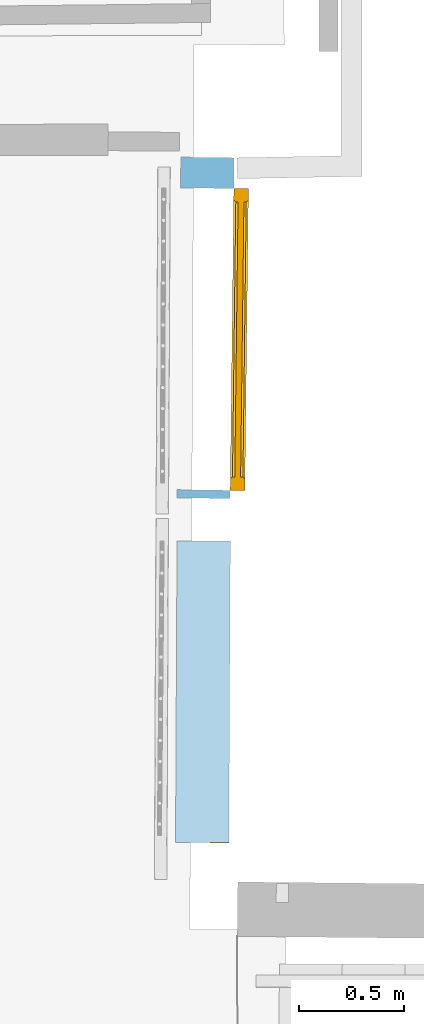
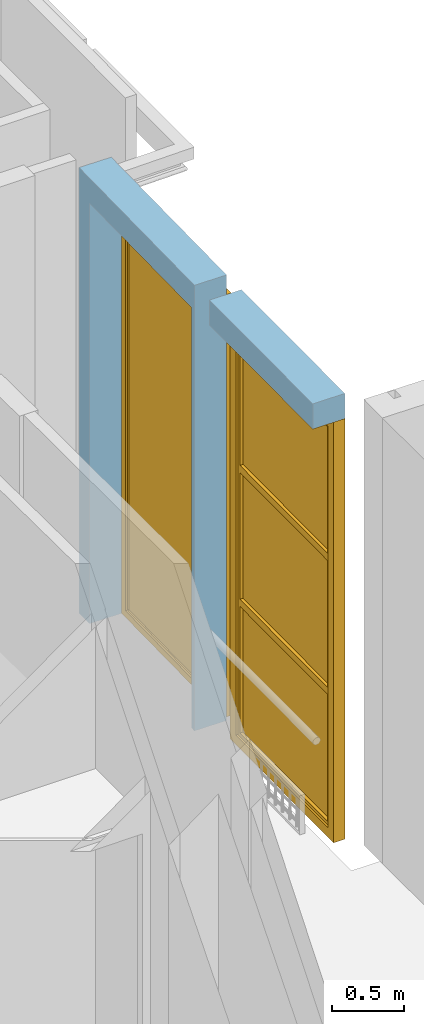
# One storey, part 42 of 66: 2 windows, 2 openings, plus 2 elements that do not belong to this part.
"""IFC2X3 building model written with IfcOpenShell, lengths in centimetres."""

from ifc_helpers import new_model, entity, si_unit, converted_unit, direction, frame, origin, origin_with_axes, origin_2d_with_axis, place, context, subcontext, project, spatial, polyline, rectangle, outline, extrude, faceted_brep, shape, source, transform, mapped, material, material_list, layer, layer_set, layer_usage, type_object, element, fill, save


model = new_model("IFC2X3")

# Units and contexts
model_context = context("Model", 3, precision=0.0001, world=origin(), true_north=direction((0.225632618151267, 0.974212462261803, 0.0)))
body_context = subcontext(model_context, "Body", "Model", "MODEL_VIEW")
footprint_context = subcontext(model_context, "FootPrint", "Model", "MODEL_VIEW")
profile_context = subcontext(model_context, "Profile", "Model", "MODEL_VIEW")
ifc_project = project(units=[si_unit("LENGTHUNIT", "METRE", prefix="CENTI"), si_unit("AREAUNIT", "SQUARE_METRE", prefix="CENTI"), si_unit("VOLUMEUNIT", "CUBIC_METRE", prefix="CENTI"), converted_unit("PLANEANGLEUNIT", "DEGREE", entity("IfcRatioMeasure", 0.0174532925), si_unit("PLANEANGLEUNIT", "RADIAN"), dimensions=[0, 0, 0, 0, 0, 0, 0])], contexts=[model_context])

# Site, building, storey
site_placement = place(None, origin_with_axes())
site = spatial("IfcSite", under=ifc_project, at=site_placement, Name="Default Site", CompositionType="ELEMENT")
building_placement = place(site_placement, origin_with_axes())
building = spatial("IfcBuilding", under=site, at=building_placement, Name="Default Building", CompositionType="ELEMENT")
storey_placement = place(building_placement, frame((0.0, 0.0, 477.795358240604), z_axis=(0.0, 0.0, 1.0), x_axis=(1.0, 0.0, 0.0)))
storey = spatial("IfcBuildingStorey", under=building, at=storey_placement, Name="Niveau 1", CompositionType="ELEMENT", Elevation=477.795358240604)

# Wall, opening, window
ifc_material_1 = material(Name="<aucun>")
ifc_layer = layer(ifc_material_1, 25.5)
ifc_layer_set = layer_set([ifc_layer], Name="default")
ifc_layer_usage_1 = layer_usage(ifc_layer_set, "AXIS2", "POSITIVE", -12.75)
wall_type = type_object("IfcWallType", Name="default 255", PredefinedType="NOTDEFINED", material=ifc_layer_set)
wall_1_placement = place(storey_placement, frame((1083.47369991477, -176.791939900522, -4.9999999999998), z_axis=(0.0, 0.0, 1.0), x_axis=(0.00502234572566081, 0.999987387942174, 0.0)))
wall_1 = element("IfcWallStandardCase", 1, at=wall_1_placement, inside=storey, type_object=wall_type, material=ifc_layer_usage_1, Name="Enveloppe 728247", context=body_context, shape_type="SweptSolid", body=[
    extrude(rectangle(XDim=144.13896955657, YDim=25.5000000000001, at=origin_2d_with_axis()), frame((72.1624117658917, -1.77635683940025e-13, -8.88178419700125e-14), z_axis=(0.0, 0.0, 1.0), x_axis=(1.0, -1.92641042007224e-15, 0.0)), (0.0, 0.0, 1.0), 376.115015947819),
])
opening_1_placement = place(wall_1_placement, frame((-2.8421709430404e-14, 0.0, 8.88455975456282e-14), z_axis=(0.0, 0.0, 1.0), x_axis=(1.0, -1.8474805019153e-16, 0.0)))
cartesian_point_1 = entity("IfcCartesianPoint", [2.22044604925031e-14, 1.77635683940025e-13, 355.0])
cartesian_point_2 = entity("IfcCartesianPoint", [144.324823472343, 12.7500000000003])
opening_1 = element("IfcOpeningElement", 2, at=opening_1_placement, cuts=wall_1, Name="4294966486_11", ObjectType="Opening", shapes=[
    shape(body_context, "Body", "SweptSolid", [extrude(outline(polyline([(2.22044604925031e-14, 355.0), (0.0, -1.77635683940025e-13), (144.324823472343, -1.77635683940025e-13), (144.324823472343, 355.0), (2.22044604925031e-14, 355.0)])), frame((0.0, 22.75, 0.0), z_axis=(0.0, -1.0, 0.0), x_axis=(1.0, 0.0, 0.0)), (0.0, 0.0, 1.0), 45.5)]),
    shape(profile_context, "Profile", "GeometricCurveSet", [entity("IfcGeometricCurveSet", [entity("IfcPolyline", [cartesian_point_1, entity("IfcCartesianPoint", [0.0, 1.77635683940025e-13, -1.77635683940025e-13]), entity("IfcCartesianPoint", [144.324823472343, 3.5527136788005e-13, -1.77635683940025e-13]), entity("IfcCartesianPoint", [144.324823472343, 3.5527136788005e-13, 355.0]), cartesian_point_1])])]),
    shape(footprint_context, "FootPrint", "GeometricCurveSet", [entity("IfcGeometricCurveSet", [entity("IfcPolyline", [cartesian_point_2, entity("IfcCartesianPoint", [0.0, 12.7500000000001]), entity("IfcCartesianPoint", [0.0, -12.7499999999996]), entity("IfcCartesianPoint", [144.324823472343, -12.7499999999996]), cartesian_point_2])])]),
])
ifc_material_2 = material(Name="Transparent")
ifc_material_3 = material(Name="Blanc trafic")
ifc_material_list = material_list([ifc_material_2, ifc_material_3])
window_style_1 = type_object("IfcWindowStyle", Name="Fn 1 montant fixe 2 vitres ép 90", ConstructionType="NOTDEFINED", OperationType="TRIPLE_PANEL_HORIZONTAL", ParameterTakesPrecedence=True, Sizeable=False, material=ifc_material_list)
shared_shape_1 = source(origin_with_axes(), body_context, "Body", "Brep", [
    faceted_brep([(-64.1624093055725, 347.000002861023, -4.50000017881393), (-64.1624093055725, 347.000002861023, 4.50000017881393), (-64.1624093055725, 7.99999982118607, 4.50000017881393), (-64.1624093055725, 7.99999982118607, -4.50000017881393), (-72.1624135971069, 354.999995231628, 4.50000017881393), (-72.1624135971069, 0.0, 4.50000017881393), (-72.1624135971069, 354.999995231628, -4.50000017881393), (-72.162413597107, 1.38883966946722e-30, -4.50000017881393), (-72.162413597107, 1.38883966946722e-30, 4.50000017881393), (-72.1624135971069, 0.0, -4.50000017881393), (64.1624093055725, 7.99999982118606, 4.50000017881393), (64.1624093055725, 7.99999982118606, -4.50000017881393), (72.1624135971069, 0.0, 4.50000017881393), (64.1624093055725, 7.99999982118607, 4.50000017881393), (72.1624135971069, 0.0, -4.50000017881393), (64.1624093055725, 7.99999982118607, -4.50000017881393), (64.1624093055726, 347.000002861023, 4.50000017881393), (64.1624093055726, 347.000002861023, -4.50000017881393), (72.1624135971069, 354.999995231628, 4.50000017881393), (64.1624093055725, 347.000002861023, 4.50000017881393), (72.162413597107, 354.999995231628, -4.50000017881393), (72.162413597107, 354.999995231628, 4.50000017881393), (64.1624093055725, 347.000002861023, -4.50000017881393), (72.1624135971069, 354.999995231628, -4.50000017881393)], [[[0, 1, 2, 3]], [[1, 4, 5, 2]], [[4, 6, 7, 8]], [[6, 0, 3, 9]], [[3, 2, 10, 11]], [[2, 5, 12, 13]], [[5, 9, 14, 12]], [[9, 3, 15, 14]], [[15, 13, 16, 17]], [[13, 12, 18, 19]], [[12, 14, 20, 21]], [[14, 15, 22, 23]], [[22, 19, 1, 0]], [[19, 18, 4, 1]], [[18, 23, 6, 4]], [[23, 22, 0, 6]]]),
    faceted_brep([(-61.1624121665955, 344.000005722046, -2.99999993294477), (-61.1624121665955, 344.000005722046, 2.99999993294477), (-61.1624121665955, 236.999988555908, 2.99999993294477), (-61.1624121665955, 236.999988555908, -2.99999993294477), (-64.1624093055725, 347.000002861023, 2.99999993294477), (-64.1624093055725, 233.999991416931, 2.99999993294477), (-64.1624093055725, 347.000002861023, -2.99999993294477), (-64.1624093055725, 233.999991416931, -2.99999993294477), (61.1624121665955, 236.999988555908, 2.99999993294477), (61.1624121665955, 236.999988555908, -2.99999993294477), (64.1624093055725, 233.999991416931, 2.99999993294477), (64.1624093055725, 233.999991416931, -2.99999993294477), (61.1624121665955, 344.000005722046, 2.99999993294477), (61.1624121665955, 344.000005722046, -2.99999993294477), (64.1624093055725, 347.000002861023, 2.99999993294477), (64.1624093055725, 347.000002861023, -2.99999993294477)], [[[0, 1, 2, 3]], [[1, 4, 5, 2]], [[4, 6, 7, 5]], [[6, 0, 3, 7]], [[3, 2, 8, 9]], [[2, 5, 10, 8]], [[5, 7, 11, 10]], [[7, 3, 9, 11]], [[9, 8, 12, 13]], [[8, 10, 14, 12]], [[10, 11, 15, 14]], [[11, 9, 13, 15]], [[13, 12, 1, 0]], [[12, 14, 4, 1]], [[14, 15, 6, 4]], [[15, 13, 0, 6]]]),
    faceted_brep([(61.1624121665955, 344.000005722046, -0.499999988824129), (61.1624121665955, 236.999988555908, -0.499999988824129), (-61.1624121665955, 236.999988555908, -0.499999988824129), (-61.1624121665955, 344.000005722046, -0.499999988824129), (-61.1624121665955, 344.000005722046, 0.499999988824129), (-61.1624121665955, 236.999988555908, 0.499999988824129), (61.1624121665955, 236.999988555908, 0.499999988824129), (61.1624121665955, 344.000005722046, 0.499999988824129)], [[[0, 1, 2, 3]], [[4, 5, 6, 7]], [[3, 2, 5, 4]], [[2, 1, 6, 5]], [[1, 0, 7, 6]], [[0, 3, 4, 7]]]),
    faceted_brep([(-61.1624121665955, 230.999994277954, -2.99999993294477), (-61.1624121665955, 230.999994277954, 2.99999993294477), (-61.1624121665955, 124.000000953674, 2.99999993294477), (-61.1624121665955, 124.000000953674, -2.99999993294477), (-64.1624093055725, 233.999991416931, 2.99999993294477), (-64.1624093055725, 121.000003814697, 2.99999993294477), (-64.1624093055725, 233.999991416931, -2.99999993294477), (-64.1624093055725, 121.000003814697, -2.99999993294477), (61.1624121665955, 124.000000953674, 2.99999993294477), (61.1624121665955, 124.000000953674, -2.99999993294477), (64.1624093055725, 121.000003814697, 2.99999993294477), (64.1624093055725, 121.000003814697, -2.99999993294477), (61.1624121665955, 230.999994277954, 2.99999993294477), (61.1624121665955, 230.999994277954, -2.99999993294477), (64.1624093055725, 233.999991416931, 2.99999993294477), (64.1624093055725, 233.999991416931, -2.99999993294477)], [[[0, 1, 2, 3]], [[1, 4, 5, 2]], [[4, 6, 7, 5]], [[6, 0, 3, 7]], [[3, 2, 8, 9]], [[2, 5, 10, 8]], [[5, 7, 11, 10]], [[7, 3, 9, 11]], [[9, 8, 12, 13]], [[8, 10, 14, 12]], [[10, 11, 15, 14]], [[11, 9, 13, 15]], [[13, 12, 1, 0]], [[12, 14, 4, 1]], [[14, 15, 6, 4]], [[15, 13, 0, 6]]]),
    faceted_brep([(61.1624121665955, 230.999994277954, -0.499999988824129), (61.1624121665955, 124.000000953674, -0.499999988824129), (-61.1624121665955, 124.000000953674, -0.499999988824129), (-61.1624121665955, 230.999994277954, -0.499999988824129), (-61.1624121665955, 230.999994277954, 0.499999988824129), (-61.1624121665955, 124.000000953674, 0.499999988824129), (61.1624121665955, 124.000000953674, 0.499999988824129), (61.1624121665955, 230.999994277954, 0.499999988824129)], [[[0, 1, 2, 3]], [[4, 5, 6, 7]], [[3, 2, 5, 4]], [[2, 1, 6, 5]], [[1, 0, 7, 6]], [[0, 3, 4, 7]]]),
    faceted_brep([(-61.1624121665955, 117.999994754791, -2.99999993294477), (-61.1624121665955, 117.999994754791, 2.99999993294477), (-61.1624121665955, 10.9999999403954, 2.99999993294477), (-61.1624121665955, 10.9999999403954, -2.99999993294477), (-64.1624093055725, 121.000003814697, 2.99999993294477), (-64.1624093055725, 7.99999982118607, 2.99999993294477), (-64.1624093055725, 121.000003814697, -2.99999993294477), (-64.1624093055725, 7.99999982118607, -2.99999993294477), (61.1624121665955, 10.9999999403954, 2.99999993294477), (61.1624121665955, 10.9999999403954, -2.99999993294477), (64.1624093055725, 7.99999982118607, 2.99999993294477), (64.1624093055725, 7.99999982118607, -2.99999993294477), (61.1624121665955, 117.999994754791, 2.99999993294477), (61.1624121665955, 117.999994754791, -2.99999993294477), (64.1624093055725, 121.000003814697, 2.99999993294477), (64.1624093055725, 121.000003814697, -2.99999993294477)], [[[0, 1, 2, 3]], [[1, 4, 5, 2]], [[4, 6, 7, 5]], [[6, 0, 3, 7]], [[3, 2, 8, 9]], [[2, 5, 10, 8]], [[5, 7, 11, 10]], [[7, 3, 9, 11]], [[9, 8, 12, 13]], [[8, 10, 14, 12]], [[10, 11, 15, 14]], [[11, 9, 13, 15]], [[13, 12, 1, 0]], [[12, 14, 4, 1]], [[14, 15, 6, 4]], [[15, 13, 0, 6]]]),
    faceted_brep([(61.1624121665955, 117.999994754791, -0.499999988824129), (61.1624121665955, 10.9999999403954, -0.499999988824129), (-61.1624121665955, 10.9999999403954, -0.499999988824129), (-61.1624121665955, 117.999994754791, -0.499999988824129), (-61.1624121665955, 117.999994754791, 0.499999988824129), (-61.1624121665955, 10.9999999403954, 0.499999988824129), (61.1624121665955, 10.9999999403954, 0.499999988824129), (61.1624121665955, 117.999994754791, 0.499999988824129)], [[[0, 1, 2, 3]], [[4, 5, 6, 7]], [[3, 2, 5, 4]], [[2, 1, 6, 5]], [[1, 0, 7, 6]], [[0, 3, 4, 7]]]),
])
window_1_placement = place(opening_1_placement, frame((-2.8421709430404e-14, -12.75, 2.77555756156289e-17), z_axis=(0.0, 0.0, 1.0), x_axis=(1.0, 0.0, 0.0)))
window_1 = element("IfcWindow", 3, at=window_1_placement, inside=storey, type_object=window_style_1, material=ifc_material_list, Name="Fenêtre 728287", OverallHeight=355.0, OverallWidth=144.324823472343, context=body_context, shape_type="MappedRepresentation", body=[
    mapped(shared_shape_1, transform((72.1624117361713, 4.49999999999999, 8.88178419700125e-14), x_axis=(-1.0, 0.0, 0.0), y_axis=(0.0, 0.0, 1.0), z_axis=(0.0, 1.0, 0.0), scale=1.0, scale2=1.0, scale3=1.0, uniform=False)),
])
fill(opening_1, window_1)

ifc_layer_usage_2 = layer_usage(ifc_layer_set, "AXIS2", "POSITIVE", -12.75)
wall_2_placement = place(storey_placement, frame((1084.07586503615, -12.2693195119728, -4.9999999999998), z_axis=(0.0, 0.0, 1.0), x_axis=(0.012024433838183, 0.999927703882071, 0.0)))
wall_2 = element("IfcWallStandardCase", 4, at=wall_2_placement, inside=storey, type_object=wall_type, material=ifc_layer_usage_2, Name="Enveloppe 728252", context=body_context, shape_type="SweptSolid", body=[
    extrude(outline(polyline([(0.201177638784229, 12.7500000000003), (0.201177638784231, -5.32907051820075e-13), (0.410992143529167, -12.4707481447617), (0.201767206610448, -0.144572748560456), (0.201177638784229, -12.7499999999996), (163.113984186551, -12.7499999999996), (163.113984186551, 12.7500000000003), (0.201177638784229, 12.7500000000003)])), frame((0.0, 0.0, 1.77635683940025e-13), z_axis=(0.0, 0.0, 1.0), x_axis=(1.0, 0.0, 0.0)), (0.0, 0.0, 1.0), 376.11501594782),
])
opening_2_placement = place(wall_2_placement, frame((4.10540719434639, 2.27373675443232e-13, -1.92276749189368e-05), z_axis=(0.0, 0.0, 1.0), x_axis=(1.0, 6.93889390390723e-17, 0.0)))
cartesian_point_3 = entity("IfcCartesianPoint", [2.22044604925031e-14, 0.0, 355.0])
cartesian_point_4 = entity("IfcCartesianPoint", [144.324823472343, 12.7500000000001])
opening_2 = element("IfcOpeningElement", 5, at=opening_2_placement, cuts=wall_2, Name="4294966487_11", ObjectType="Opening", shapes=[
    shape(body_context, "Body", "SweptSolid", [extrude(outline(polyline([(2.22044604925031e-14, 355.0), (1.38777878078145e-15, 0.0), (144.324823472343, 0.0), (144.324823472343, 355.0), (2.22044604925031e-14, 355.0)])), frame((0.0, 22.75, 0.0), z_axis=(0.0, -1.0, 0.0), x_axis=(1.0, 0.0, 0.0)), (0.0, 0.0, 1.0), 45.5)]),
    shape(profile_context, "Profile", "GeometricCurveSet", [entity("IfcGeometricCurveSet", [entity("IfcPolyline", [cartesian_point_3, entity("IfcCartesianPoint", [0.0, 0.0, 0.0]), entity("IfcCartesianPoint", [144.324823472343, 1.77635683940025e-13, 0.0]), entity("IfcCartesianPoint", [144.324823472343, 1.77635683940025e-13, 355.0]), cartesian_point_3])])]),
    shape(footprint_context, "FootPrint", "GeometricCurveSet", [entity("IfcGeometricCurveSet", [entity("IfcPolyline", [cartesian_point_4, entity("IfcCartesianPoint", [1.38777878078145e-15, 12.7500000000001]), entity("IfcCartesianPoint", [-1.38777878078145e-15, -12.75]), entity("IfcCartesianPoint", [144.324823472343, -12.7499999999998]), cartesian_point_4])])]),
])
window_style_2 = type_object("IfcWindowStyle", Name="F[R] VV", ConstructionType="NOTDEFINED", OperationType="SINGLE_PANEL", ParameterTakesPrecedence=True, Sizeable=False, material=ifc_material_list)
shared_shape_2 = source(origin_with_axes(), body_context, "Body", "Brep", [
    faceted_brep([(-66.6624128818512, 349.499988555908, -7.00000002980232), (-65.662413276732, 348.499989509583, -6.00000042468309), (-65.662413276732, 6.49999976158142, -6.00000042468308), (-66.6624128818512, 5.49999997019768, -7.00000002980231), (-65.6624138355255, 348.499989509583, -5.99999986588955), (-65.6624138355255, 348.499989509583, -0.999999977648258), (-65.6624138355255, 6.49999976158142, -0.999999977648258), (-65.6624138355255, 6.49999976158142, -5.99999986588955), (-66.6624133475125, 349.499988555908, -4.65661287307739e-07), (-66.6624133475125, 5.49999997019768, -4.65661303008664e-07), (-65.6624138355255, 6.49999976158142, -0.999999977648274), (-66.6624128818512, 349.499988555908, 0.0), (-72.1624135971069, 354.999995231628, 0.0), (-72.1624135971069, -1.77635683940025e-13, 0.0), (-66.6624128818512, 5.49999997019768, 0.0), (-72.1624135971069, 354.999995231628, -7.00000002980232), (-72.162413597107, -1.77635683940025e-13, -7.00000002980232), (-72.162413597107, -1.77635683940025e-13, 0.0), (-66.6624128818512, 5.49999997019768, -7.00000002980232), (-72.1624135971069, -1.77635683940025e-13, -7.00000002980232), (-65.6624138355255, 6.49999994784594, -6.00000005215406), (65.6624138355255, 6.49999994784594, -6.00000005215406), (66.6624128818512, 5.49999997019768, -7.00000002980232), (65.6624138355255, 6.49999976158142, -0.999999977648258), (65.6624138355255, 6.49999976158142, -5.99999986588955), (-66.6624128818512, 5.49999987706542, -9.31322574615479e-08), (66.6624128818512, 5.49999987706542, -9.31322613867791e-08), (65.6624138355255, 6.49999976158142, -0.999999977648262), (72.1624135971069, -1.77635683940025e-13, 0.0), (66.6624128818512, 5.49999997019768, 0.0), (72.1624135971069, -1.77635683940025e-13, -7.00000002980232), (65.662413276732, 6.49999976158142, -6.00000042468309), (65.662413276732, 348.499989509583, -6.00000042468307), (66.6624128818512, 349.499988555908, -7.0000000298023), (65.6624138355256, 348.499989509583, -0.999999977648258), (65.6624138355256, 348.499989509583, -5.99999986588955), (66.6624133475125, 5.49999997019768, -4.65661287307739e-07), (66.6624133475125, 349.499988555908, -4.65661299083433e-07), (65.6624138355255, 348.499989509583, -0.99999997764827), (72.1624135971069, 354.999995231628, 0.0), (66.6624128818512, 349.499988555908, 0.0), (72.1624135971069, 354.999995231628, -7.00000002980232), (66.6624128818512, 349.499988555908, -7.00000002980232), (65.6624138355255, 348.499988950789, -6.00000042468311), (-65.6624138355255, 348.499988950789, -6.00000042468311), (65.6624138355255, 348.499989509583, -5.99999986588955), (65.6624138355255, 348.499989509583, -0.999999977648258), (66.6624128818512, 349.499989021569, -4.65661295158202e-07), (-66.6624128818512, 349.499989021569, -4.65661295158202e-07)], [[[0, 1, 2, 3]], [[4, 5, 6, 7]], [[5, 8, 9, 10]], [[11, 12, 13, 14]], [[12, 15, 16, 17]], [[15, 0, 18, 19]], [[18, 20, 21, 22]], [[7, 6, 23, 24]], [[6, 25, 26, 27]], [[14, 13, 28, 29]], [[13, 19, 30, 28]], [[19, 18, 22, 30]], [[22, 31, 32, 33]], [[24, 23, 34, 35]], [[23, 36, 37, 38]], [[29, 28, 39, 40]], [[28, 30, 41, 39]], [[30, 22, 42, 41]], [[42, 43, 44, 0]], [[45, 46, 5, 4]], [[46, 47, 48, 5]], [[40, 39, 12, 11]], [[39, 41, 15, 12]], [[41, 42, 0, 15]]]),
    faceted_brep([(65.6624138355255, 348.499989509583, -4.89999987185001), (65.6624138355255, 6.49999976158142, -4.89999987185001), (-65.6624138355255, 6.49999976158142, -4.89999987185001), (-65.6624138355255, 348.499989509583, -4.89999987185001), (-65.6624138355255, 348.499989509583, -2.09999997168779), (-65.6624138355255, 6.49999976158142, -2.09999997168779), (65.6624138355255, 6.49999976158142, -2.09999997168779), (65.6624138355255, 348.499989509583, -2.09999997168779)], [[[0, 1, 2, 3]], [[4, 5, 6, 7]], [[3, 2, 5, 4]], [[2, 1, 6, 5]], [[1, 0, 7, 6]], [[0, 3, 4, 7]]]),
])
window_2_placement = place(opening_2_placement, frame((-1.06581410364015e-14, -12.75, -2.77555756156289e-17), z_axis=(0.0, 0.0, 1.0), x_axis=(1.0, 0.0, 0.0)))
window_2 = element("IfcWindow", 6, at=window_2_placement, inside=storey, type_object=window_style_2, material=ifc_material_list, Name="Fenêtre 728288", OverallHeight=355.0, OverallWidth=144.324823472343, context=body_context, shape_type="MappedRepresentation", body=[
    mapped(shared_shape_2, transform((72.1624117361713, 1.77635683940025e-13, -1.77635683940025e-13), x_axis=(-1.0, -1.73472347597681e-18, 0.0), y_axis=(0.0, 0.0, 1.0), z_axis=(-1.73472347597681e-18, 1.0, 0.0), scale=1.0, scale2=1.0, scale3=1.0, uniform=False)),
])
fill(opening_2, window_2)

save(model, "model.ifc")
